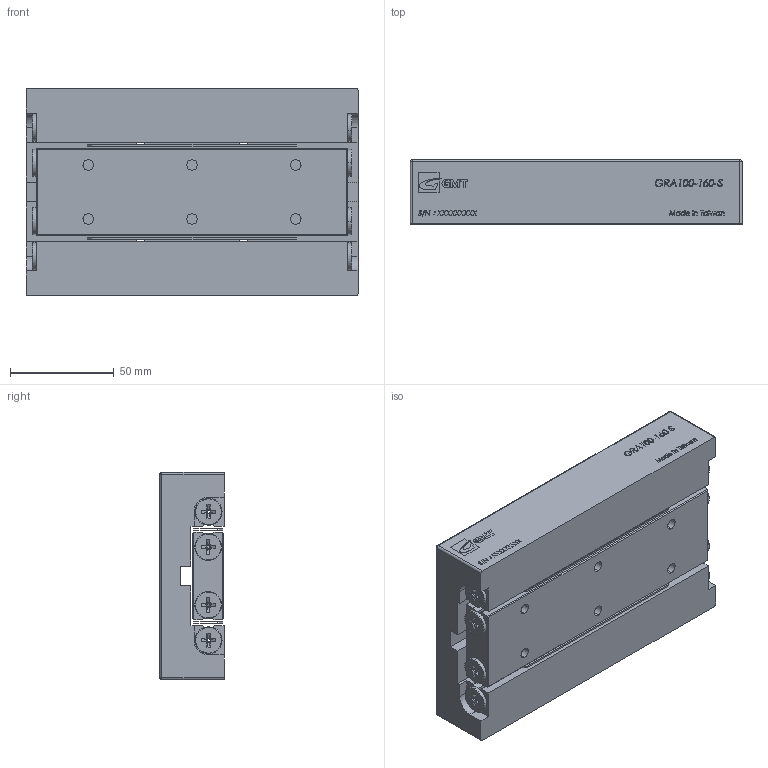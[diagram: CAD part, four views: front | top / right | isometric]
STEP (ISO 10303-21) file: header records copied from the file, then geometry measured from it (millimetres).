
FILE_DESCRIPTION (( 'STEP AP203' ), '1' );
FILE_NAME ('GRA100-160-S.STEP', '2013-12-14T07:27:35', ( '' ), ( '' ), 'SwSTEP 2.0', 'SolidWorks 2013', '' );
FILE_SCHEMA (( 'CONFIG_CONTROL_DESIGN' ));
Length unit declared in the file: millimetre
Products named in the file (1): GRA100-160-S
Bounding box: 160 x 31 x 100 mm (x, y, z)
Surface area: 80824.1 mm2 (no closed solid volume)
Topology: 0 solids, 57 shells, 344 faces, 2003 edges, 1704 vertices
Faces by surface type: plane 239, cylinder 49, torus 32, cone 16, bspline 4, sphere 4
Entity records: 23769 total; most frequent: CARTESIAN_POINT 9100, ORIENTED_EDGE 2728, DIRECTION 2588, EDGE_CURVE 1999, VERTEX_POINT 1704, LINE 1248, VECTOR 1248, AXIS2_PLACEMENT_3D 670
